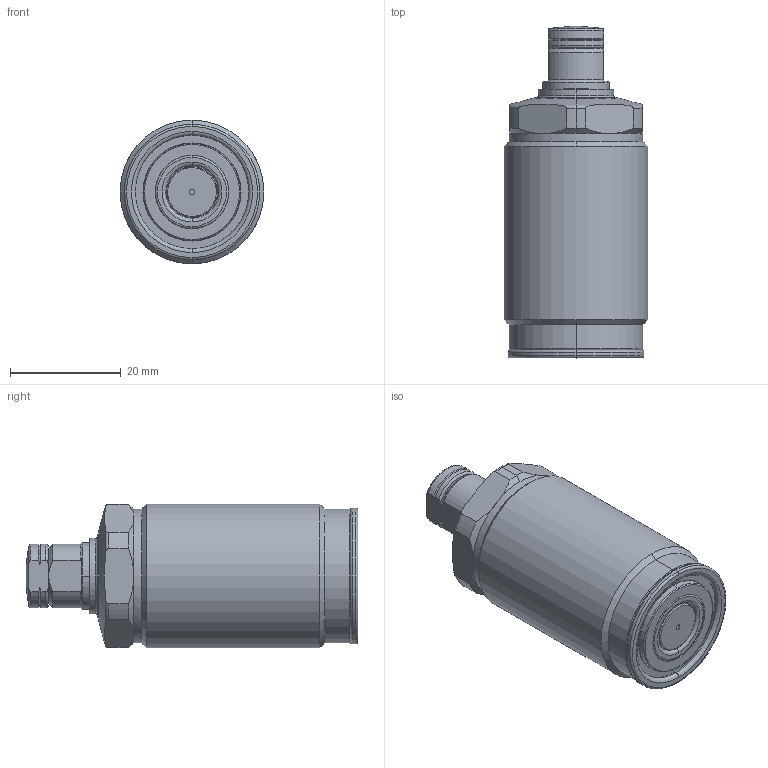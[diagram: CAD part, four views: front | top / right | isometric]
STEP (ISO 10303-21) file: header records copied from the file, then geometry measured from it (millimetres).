
FILE_DESCRIPTION(/* description */ (''),/* implementation_level */ '2;1');
FILE_NAME(/* name */ 'GSC00.stp',/* time_stamp */ '2025-01-05T13:06:33+08:00',/* author */ (''),/* organization */ (''),/* preprocessor_version */ 'ST-DEVELOPER v16.7',/* originating_system */ 'SIEMENS PLM Software NX 12.0',/* authorisation */ '');
FILE_SCHEMA (('AUTOMOTIVE_DESIGN { 1 0 10303 214 3 1 1 1 }'));
Length unit declared in the file: millimetre
Products named in the file (7): GSC00-06; GSC00-04; GSC00-05; GSC00-03; GSC00-02; GSC00-01; TNC0403-x_step
Assembly tree (6 placements, depth 2):
  TNC0403-x_step
    GSC00-01
    GSC00-02
    GSC00-03
    GSC00-05
    GSC00-04
    GSC00-06
Bounding box: 26 x 60 x 26 mm (x, y, z)
Volume: 24818.7 mm3; surface area: 7301.6 mm2
Topology: 6 solids, 6 shells, 174 faces, 387 edges, 233 vertices
Faces by surface type: cylinder 52, torus 49, plane 37, cone 34, sphere 2
Full cylindrical faces by diameter (mm): 24.2 x1, 26 x1
Entity records: 5384 total; most frequent: CARTESIAN_POINT 1239, DIRECTION 932, ORIENTED_EDGE 778, AXIS2_PLACEMENT_3D 416, EDGE_CURVE 389, VERTEX_POINT 237, CIRCLE 229, EDGE_LOOP 192
